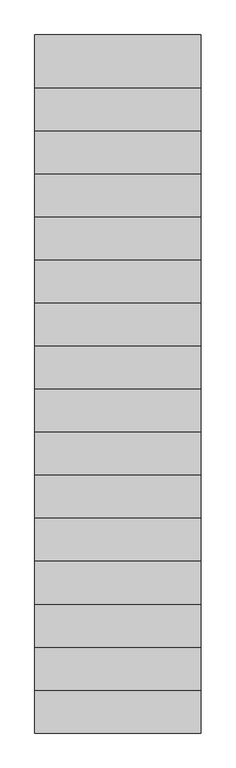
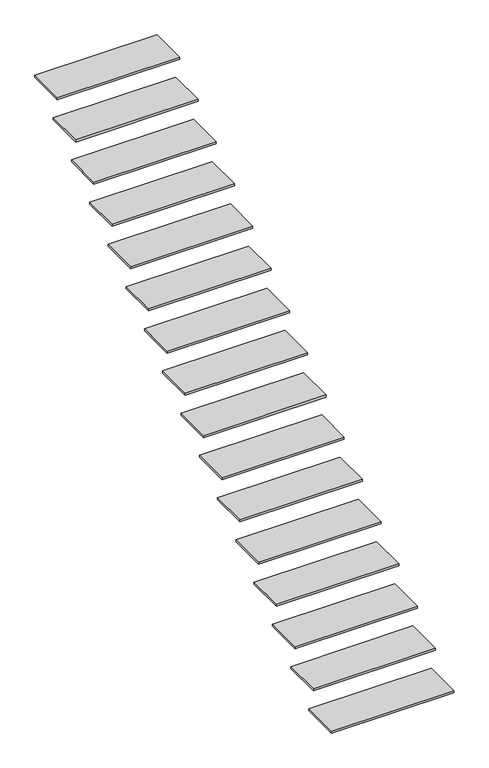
"""IFC4 building model written with IfcOpenShell, lengths in millimetres: stair flight geometry, 24_STR_trede_staal_gegalvaniseerd_rooster_15_neus_50."""

from ifc_helpers import new_model, si_unit, frame, origin, place, context, project, spatial, polyline, outline, extrude, source, transform, mapped, element, save


def stair_flight_bdb9c17e(model_context):
    return source(origin(), model_context, "Body", "SweptSolid", [
        extrude(outline(polyline([(29349.8089026, -25054.6322236), (30199.8089026, -25054.6322236), (30199.8089026, -25324.6322236), (29349.8089026, -25324.6322236), (29349.8089026, -25054.6322236)])), frame((0.0, 0.0, 161.4705882), z_axis=(0.0, 0.0, 1.0), x_axis=(1.0, 0.0, 0.0)), (0.0, 0.0, 1.0), 15.0),
        extrude(outline(polyline([(29349.8089026, -24834.6322236), (30199.8089026, -24834.6322236), (30199.8089026, -25104.6322236), (29349.8089026, -25104.6322236), (29349.8089026, -24834.6322236)])), frame((0.0, 0.0, 337.9411765), z_axis=(0.0, 0.0, 1.0), x_axis=(1.0, 0.0, 0.0)), (0.0, 0.0, 1.0), 15.0),
        extrude(outline(polyline([(29349.8089026, -24614.6322236), (30199.8089026, -24614.6322236), (30199.8089026, -24884.6322236), (29349.8089026, -24884.6322236), (29349.8089026, -24614.6322236)])), frame((0.0, 0.0, 514.4117647), z_axis=(0.0, 0.0, 1.0), x_axis=(1.0, 0.0, 0.0)), (0.0, 0.0, 1.0), 15.0),
        extrude(outline(polyline([(29349.8089026, -24394.6322236), (30199.8089026, -24394.6322236), (30199.8089026, -24664.6322236), (29349.8089026, -24664.6322236), (29349.8089026, -24394.6322236)])), frame((0.0, 0.0, 690.8823529), z_axis=(0.0, 0.0, 1.0), x_axis=(1.0, 0.0, 0.0)), (0.0, 0.0, 1.0), 15.0),
        extrude(outline(polyline([(29349.8089026, -24174.6322236), (30199.8089026, -24174.6322236), (30199.8089026, -24444.6322236), (29349.8089026, -24444.6322236), (29349.8089026, -24174.6322236)])), frame((0.0, 0.0, 867.3529412), z_axis=(0.0, 0.0, 1.0), x_axis=(1.0, 0.0, 0.0)), (0.0, 0.0, 1.0), 15.0),
        extrude(outline(polyline([(29349.8089026, -23954.6322236), (30199.8089026, -23954.6322236), (30199.8089026, -24224.6322236), (29349.8089026, -24224.6322236), (29349.8089026, -23954.6322236)])), frame((0.0, 0.0, 1043.8235294), z_axis=(0.0, 0.0, 1.0), x_axis=(1.0, 0.0, 0.0)), (0.0, 0.0, 1.0), 15.0),
        extrude(outline(polyline([(29349.8089026, -23734.6322236), (30199.8089026, -23734.6322236), (30199.8089026, -24004.6322236), (29349.8089026, -24004.6322236), (29349.8089026, -23734.6322236)])), frame((0.0, 0.0, 1220.2941176), z_axis=(0.0, 0.0, 1.0), x_axis=(1.0, 0.0, 0.0)), (0.0, 0.0, 1.0), 15.0),
        extrude(outline(polyline([(29349.8089026, -23514.6322236), (30199.8089026, -23514.6322236), (30199.8089026, -23784.6322236), (29349.8089026, -23784.6322236), (29349.8089026, -23514.6322236)])), frame((0.0, 0.0, 1396.7647059), z_axis=(0.0, 0.0, 1.0), x_axis=(1.0, 0.0, 0.0)), (0.0, 0.0, 1.0), 15.0),
        extrude(outline(polyline([(29349.8089026, -23294.6322236), (30199.8089026, -23294.6322236), (30199.8089026, -23564.6322236), (29349.8089026, -23564.6322236), (29349.8089026, -23294.6322236)])), frame((0.0, 0.0, 1573.2352941), z_axis=(0.0, 0.0, 1.0), x_axis=(1.0, 0.0, 0.0)), (0.0, 0.0, 1.0), 15.0),
        extrude(outline(polyline([(29349.8089026, -23074.6322236), (30199.8089026, -23074.6322236), (30199.8089026, -23344.6322236), (29349.8089026, -23344.6322236), (29349.8089026, -23074.6322236)])), frame((0.0, 0.0, 1749.7058824), z_axis=(0.0, 0.0, 1.0), x_axis=(1.0, 0.0, 0.0)), (0.0, 0.0, 1.0), 15.0),
        extrude(outline(polyline([(29349.8089026, -22854.6322236), (30199.8089026, -22854.6322236), (30199.8089026, -23124.6322236), (29349.8089026, -23124.6322236), (29349.8089026, -22854.6322236)])), frame((0.0, 0.0, 1926.1764706), z_axis=(0.0, 0.0, 1.0), x_axis=(1.0, 0.0, 0.0)), (0.0, 0.0, 1.0), 15.0),
        extrude(outline(polyline([(29349.8089026, -22634.6322236), (30199.8089026, -22634.6322236), (30199.8089026, -22904.6322236), (29349.8089026, -22904.6322236), (29349.8089026, -22634.6322236)])), frame((0.0, 0.0, 2102.6470588), z_axis=(0.0, 0.0, 1.0), x_axis=(1.0, 0.0, 0.0)), (0.0, 0.0, 1.0), 15.0),
        extrude(outline(polyline([(29349.8089026, -22414.6322236), (30199.8089026, -22414.6322236), (30199.8089026, -22684.6322236), (29349.8089026, -22684.6322236), (29349.8089026, -22414.6322236)])), frame((0.0, 0.0, 2279.1176471), z_axis=(0.0, 0.0, 1.0), x_axis=(1.0, 0.0, 0.0)), (0.0, 0.0, 1.0), 15.0),
        extrude(outline(polyline([(29349.8089026, -22194.6322236), (30199.8089026, -22194.6322236), (30199.8089026, -22464.6322236), (29349.8089026, -22464.6322236), (29349.8089026, -22194.6322236)])), frame((0.0, 0.0, 2455.5882353), z_axis=(0.0, 0.0, 1.0), x_axis=(1.0, 0.0, 0.0)), (0.0, 0.0, 1.0), 15.0),
        extrude(outline(polyline([(29349.8089026, -21974.6322236), (30199.8089026, -21974.6322236), (30199.8089026, -22244.6322236), (29349.8089026, -22244.6322236), (29349.8089026, -21974.6322236)])), frame((0.0, 0.0, 2632.0588235), z_axis=(0.0, 0.0, 1.0), x_axis=(1.0, 0.0, 0.0)), (0.0, 0.0, 1.0), 15.0),
        extrude(outline(polyline([(29349.8089026, -21754.6322236), (30199.8089026, -21754.6322236), (30199.8089026, -22024.6322236), (29349.8089026, -22024.6322236), (29349.8089026, -21754.6322236)])), frame((0.0, 0.0, 2808.5294118), z_axis=(0.0, 0.0, 1.0), x_axis=(1.0, 0.0, 0.0)), (0.0, 0.0, 1.0), 15.0),
    ])


if __name__ == "__main__":
    model = new_model("IFC4")
    model_context = context("Model", 3, world=origin())
    ifc_project = project(units=[si_unit("LENGTHUNIT", "METRE", prefix="MILLI")], contexts=[model_context])
    site = spatial("IfcSite", under=ifc_project)
    building = spatial("IfcBuilding", under=site)
    placement = place(None, origin())
    stair_flight_shape = stair_flight_bdb9c17e(model_context)
    element("IfcStairFlight", 1, ObjectType="24_STR_trede_staal_gegalvaniseerd_rooster_15_neus_50", at=placement, inside=building, context=model_context, shape_type="MappedRepresentation", body=[
        mapped(stair_flight_shape, transform((0.0, 0.0, 0.0), x_axis=(1.0, 0.0, 0.0), y_axis=(0.0, 1.0, 0.0), z_axis=(0.0, 0.0, 1.0))),
    ])
    save(model, "model.ifc")
